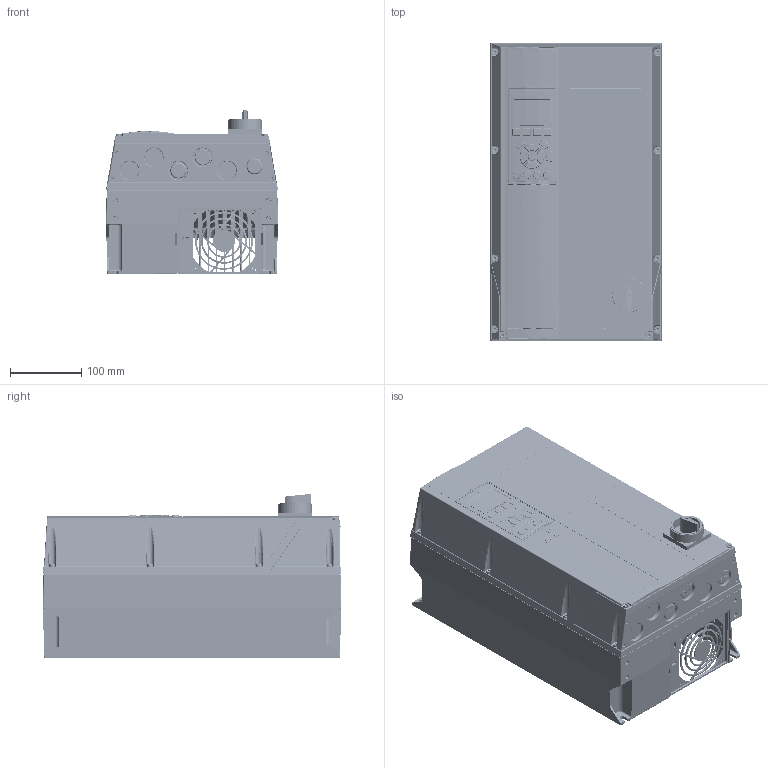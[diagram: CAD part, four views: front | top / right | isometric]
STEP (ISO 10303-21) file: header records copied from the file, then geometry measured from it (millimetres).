
FILE_DESCRIPTION((''),'2;1');
FILE_NAME('DANFOSS-FC-100-A5-SWITCH','2011-10-20T',('cstephenkumar'),('Be-Atch INC. 1993'),'PRO/ENGINEER BY PARAMETRIC TECHNOLOGY CORPORATION, 2009360','PRO/ENGINEER BY PARAMETRIC TECHNOLOGY CORPORATION, 2009360','');
FILE_SCHEMA(('AUTOMOTIVE_DESIGN { 1 0 10303 214 1 1 1 1 }'));
Products named in the file (1): DANFOSS-FC-100-A5-SWITCH
Bounding box: 242 x 420.2 x 231.3 mm (x, y, z)
Volume: 13702698.2 mm3; surface area: 1525276 mm2
Topology: 1 solids, 40 shells, 7044 faces, 17858 edges, 10997 vertices
Faces by surface type: plane 2542, cylinder 1948, bspline 1691, torus 299, cone 268, sphere 169, extrusion 127
Entity records: 383876 total; most frequent: CARTESIAN_POINT 227574, ORIENTED_EDGE 35672, DIRECTION 27365, EDGE_CURVE 17836, VERTEX_POINT 10997, AXIS2_PLACEMENT_3D 9344, VECTOR 8677, LINE 8550
